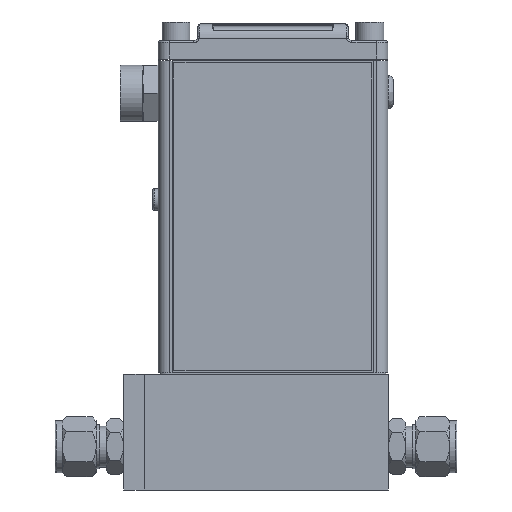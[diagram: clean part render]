
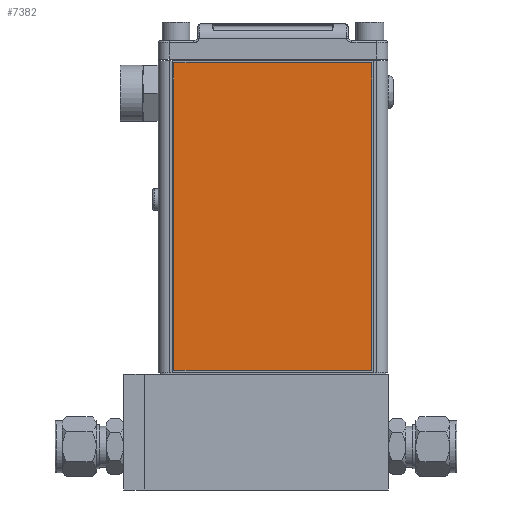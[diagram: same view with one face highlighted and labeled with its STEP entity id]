
A CAD part, front view. The second image highlights one B-rep face of the part: STEP entity #7382.
In plain terms, the highlighted planar face has unit normal (0, -1, 0).
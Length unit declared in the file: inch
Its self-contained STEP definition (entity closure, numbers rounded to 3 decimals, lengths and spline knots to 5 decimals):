
#236 = DIRECTION ( 'NONE',  ( -1., 0., 0. ) ) ;
#1503 = DIRECTION ( 'NONE',  ( 0., -1., 0. ) ) ;
#1848 = VERTEX_POINT ( 'NONE', #21242 ) ;
#2014 = CARTESIAN_POINT ( 'NONE',  ( -0.38822, -0.25061, 6.24514 ) ) ;
#2166 = CARTESIAN_POINT ( 'NONE',  ( 1.27678, -0.25061, 6.24514 ) ) ;
#2300 = DIRECTION ( 'NONE',  ( 0., 0., -1. ) ) ;
#2921 = EDGE_CURVE ( 'NONE', #1848, #3094, #17086, .T. ) ;
#3094 = VERTEX_POINT ( 'NONE', #2014 ) ;
#4369 = LINE ( 'NONE', #8754, #12456 ) ;
#6034 = CARTESIAN_POINT ( 'NONE',  ( 2.94178, -0.25061, 1.07514 ) ) ;
#6203 = CARTESIAN_POINT ( 'NONE',  ( 1.27678, -0.25061, 1.07514 ) ) ;
#7382 = ADVANCED_FACE ( 'NONE', ( #8852 ), #14835, .T. ) ;
#7488 = LINE ( 'NONE', #13612, #11230 ) ;
#7677 = ORIENTED_EDGE ( 'NONE', *, *, #2921, .T. ) ;
#7973 = ORIENTED_EDGE ( 'NONE', *, *, #11734, .T. ) ;
#8305 = EDGE_CURVE ( 'NONE', #16875, #9403, #7488, .T. ) ;
#8754 = CARTESIAN_POINT ( 'NONE',  ( -0.38822, -0.25061, 1.07514 ) ) ;
#8852 = FACE_OUTER_BOUND ( 'NONE', #11892, .T. ) ;
#9109 = VECTOR ( 'NONE', #236, 39.37008 ) ;
#9403 = VERTEX_POINT ( 'NONE', #6034 ) ;
#9973 = ORIENTED_EDGE ( 'NONE', *, *, #8305, .T. ) ;
#10177 = CARTESIAN_POINT ( 'NONE',  ( -0.38822, -0.25061, 1.07514 ) ) ;
#10282 = EDGE_CURVE ( 'NONE', #9403, #1848, #16556, .T. ) ;
#11207 = DIRECTION ( 'NONE',  ( 0., 0., -1. ) ) ;
#11230 = VECTOR ( 'NONE', #14165, 39.37008 ) ;
#11734 = EDGE_CURVE ( 'NONE', #3094, #16875, #4369, .T. ) ;
#11869 = VECTOR ( 'NONE', #14143, 39.37008 ) ;
#11892 = EDGE_LOOP ( 'NONE', ( #7973, #9973, #12465, #7677 ) ) ;
#12456 = VECTOR ( 'NONE', #2300, 39.37008 ) ;
#12465 = ORIENTED_EDGE ( 'NONE', *, *, #10282, .T. ) ;
#13612 = CARTESIAN_POINT ( 'NONE',  ( 1.27678, -0.25061, 1.07514 ) ) ;
#14052 = CARTESIAN_POINT ( 'NONE',  ( 2.94178, -0.25061, 1.07514 ) ) ;
#14143 = DIRECTION ( 'NONE',  ( 0., 0., 1. ) ) ;
#14165 = DIRECTION ( 'NONE',  ( 1., 0., 0. ) ) ;
#14719 = AXIS2_PLACEMENT_3D ( 'NONE', #6203, #1503, #11207 ) ;
#14835 = PLANE ( 'NONE',  #14719 ) ;
#16556 = LINE ( 'NONE', #14052, #11869 ) ;
#16875 = VERTEX_POINT ( 'NONE', #10177 ) ;
#17086 = LINE ( 'NONE', #2166, #9109 ) ;
#21242 = CARTESIAN_POINT ( 'NONE',  ( 2.94178, -0.25061, 6.24514 ) ) ;
